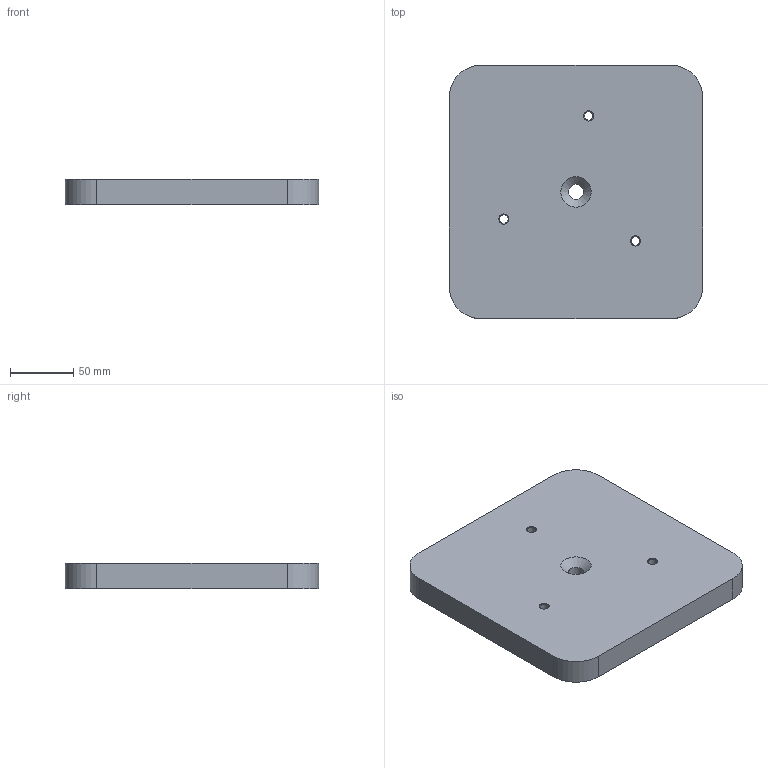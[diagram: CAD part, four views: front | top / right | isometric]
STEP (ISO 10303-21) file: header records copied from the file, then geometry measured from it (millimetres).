
FILE_DESCRIPTION(/* description */ (''),/* implementation_level */ '2;1');
FILE_NAME(/* name */ '2020TOMO-PAV-Piastra_singola_v6.stp',/* time_stamp */ '2022-05-16T14:00:35+02:00',/* author */ (''),/* organization */ (''),/* preprocessor_version */ 'ST-DEVELOPER v18.102',/* originating_system */ 'SIEMENS PLM Software NX 2000',/* authorisation */ '');
FILE_SCHEMA (('AUTOMOTIVE_DESIGN { 1 0 10303 214 3 1 1 1 }'));
Length unit declared in the file: millimetre
Products named in the file (1): turc3144724Fyyin
Bounding box: 200 x 200 x 20 mm (x, y, z)
Volume: 783879.8 mm3; surface area: 95511.6 mm2
Topology: 1 solids, 1 shells, 22 faces, 62 edges, 42 vertices
Faces by surface type: cylinder 8, cone 8, plane 6
Full cylindrical faces by diameter (mm): 6.8 x3, 12 x1
Entity records: 681 total; most frequent: DIRECTION 122, CARTESIAN_POINT 101, ORIENTED_EDGE 80, AXIS2_PLACEMENT_3D 53, EDGE_LOOP 42, EDGE_CURVE 40, FACE_BOUND 34, VERTEX_POINT 32
